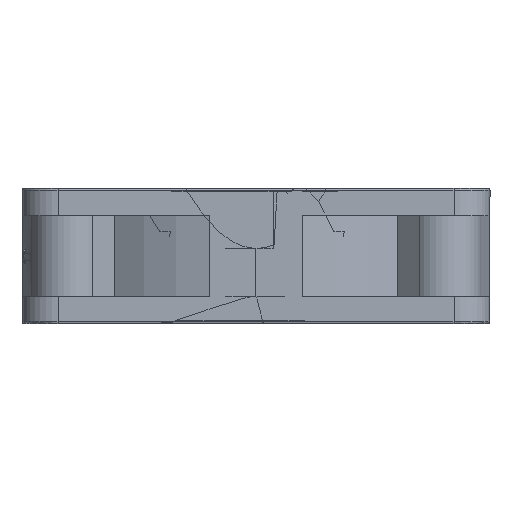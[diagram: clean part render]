
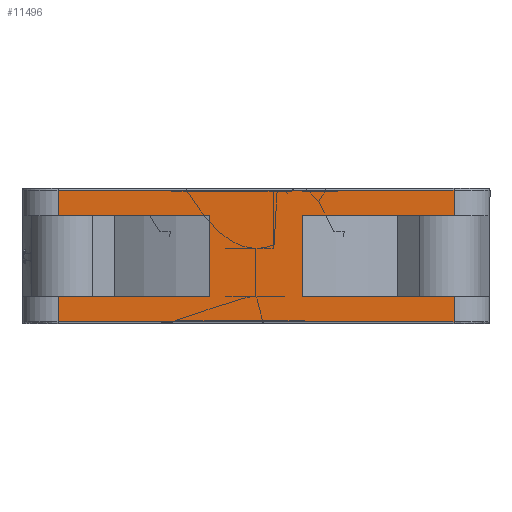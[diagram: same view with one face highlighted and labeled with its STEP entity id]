
A CAD part, left-side view. The second image highlights one B-rep face of the part: STEP entity #11496.
In plain terms, the highlighted planar face has unit normal (-1, 0, 0).
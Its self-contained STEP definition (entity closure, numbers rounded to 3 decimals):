
#150 = EDGE_CURVE ( 'NONE', #19099, #2733, #2553, .T. ) ;
#221 = CARTESIAN_POINT ( 'NONE',  ( -26., -22., -3. ) ) ;
#321 = VERTEX_POINT ( 'NONE', #12454 ) ;
#367 = CARTESIAN_POINT ( 'NONE',  ( -26., -22., -15. ) ) ;
#469 = DIRECTION ( 'NONE',  ( 0., 0., 1. ) ) ;
#716 = ORIENTED_EDGE ( 'NONE', *, *, #5051, .F. ) ;
#903 = EDGE_CURVE ( 'NONE', #10836, #8729, #11479, .T. ) ;
#1096 = CARTESIAN_POINT ( 'NONE',  ( -26., -22., -15. ) ) ;
#1154 = DIRECTION ( 'NONE',  ( 0., -1., 0. ) ) ;
#1441 = CARTESIAN_POINT ( 'NONE',  ( -26., -22., -12. ) ) ;
#2553 = LINE ( 'NONE', #18850, #18923 ) ;
#2670 = PLANE ( 'NONE',  #4665 ) ;
#2733 = VERTEX_POINT ( 'NONE', #18539 ) ;
#2758 = VERTEX_POINT ( 'NONE', #4371 ) ;
#2864 = LINE ( 'NONE', #1441, #19223 ) ;
#2898 = CARTESIAN_POINT ( 'NONE',  ( -26., 29.154, -0.2 ) ) ;
#3039 = FACE_OUTER_BOUND ( 'NONE', #6028, .T. ) ;
#3165 = EDGE_CURVE ( 'NONE', #18560, #10879, #3203, .T. ) ;
#3203 = LINE ( 'NONE', #8396, #19536 ) ;
#3259 = ORIENTED_EDGE ( 'NONE', *, *, #8419, .T. ) ;
#3336 = CARTESIAN_POINT ( 'NONE',  ( -26., 22., -0.2 ) ) ;
#3713 = VECTOR ( 'NONE', #16546, 1000. ) ;
#3929 = LINE ( 'NONE', #2898, #4433 ) ;
#4277 = CARTESIAN_POINT ( 'NONE',  ( -26., -22., -14.8 ) ) ;
#4283 = DIRECTION ( 'NONE',  ( 0., 0., 1. ) ) ;
#4371 = CARTESIAN_POINT ( 'NONE',  ( -26., -5.123, -3. ) ) ;
#4433 = VECTOR ( 'NONE', #13955, 1000. ) ;
#4665 = AXIS2_PLACEMENT_3D ( 'NONE', #1096, #9018, #4283 ) ;
#5051 = EDGE_CURVE ( 'NONE', #20192, #10836, #3929, .T. ) ;
#5484 = CARTESIAN_POINT ( 'NONE',  ( -26., 5.123, -15. ) ) ;
#5498 = CARTESIAN_POINT ( 'NONE',  ( -26., -22., -12. ) ) ;
#6005 = EDGE_CURVE ( 'NONE', #6738, #15734, #7994, .T. ) ;
#6028 = EDGE_LOOP ( 'NONE', ( #6223, #14011, #15824, #12181, #17469, #9678, #15733, #9192, #9603, #3259, #12969, #716 ) ) ;
#6223 = ORIENTED_EDGE ( 'NONE', *, *, #13352, .T. ) ;
#6415 = VECTOR ( 'NONE', #1154, 1000. ) ;
#6528 = DIRECTION ( 'NONE',  ( 0., -1., 0. ) ) ;
#6738 = VERTEX_POINT ( 'NONE', #10586 ) ;
#7594 = EDGE_CURVE ( 'NONE', #15128, #19099, #12111, .T. ) ;
#7894 = CARTESIAN_POINT ( 'NONE',  ( -26., -22., -14.8 ) ) ;
#7994 = LINE ( 'NONE', #9657, #8711 ) ;
#8253 = DIRECTION ( 'NONE',  ( 0., 0., -1. ) ) ;
#8369 = CARTESIAN_POINT ( 'NONE',  ( -26., -5.123, -15. ) ) ;
#8396 = CARTESIAN_POINT ( 'NONE',  ( -26., -22., -15. ) ) ;
#8419 = EDGE_CURVE ( 'NONE', #2758, #8729, #8900, .T. ) ;
#8711 = VECTOR ( 'NONE', #6528, 1000. ) ;
#8729 = VERTEX_POINT ( 'NONE', #221 ) ;
#8900 = LINE ( 'NONE', #20071, #16780 ) ;
#8921 = VECTOR ( 'NONE', #16533, 1000. ) ;
#9018 = DIRECTION ( 'NONE',  ( -1., 0., 0. ) ) ;
#9192 = ORIENTED_EDGE ( 'NONE', *, *, #18503, .T. ) ;
#9603 = ORIENTED_EDGE ( 'NONE', *, *, #13157, .T. ) ;
#9657 = CARTESIAN_POINT ( 'NONE',  ( -26., -22., -3. ) ) ;
#9678 = ORIENTED_EDGE ( 'NONE', *, *, #15000, .T. ) ;
#10016 = CARTESIAN_POINT ( 'NONE',  ( -26., -22., -0.2 ) ) ;
#10375 = VECTOR ( 'NONE', #13493, 1000. ) ;
#10585 = DIRECTION ( 'NONE',  ( 0., -1., 0. ) ) ;
#10586 = CARTESIAN_POINT ( 'NONE',  ( -26., 22., -3. ) ) ;
#10618 = LINE ( 'NONE', #4277, #6415 ) ;
#10836 = VERTEX_POINT ( 'NONE', #10016 ) ;
#10879 = VERTEX_POINT ( 'NONE', #13293 ) ;
#11376 = VECTOR ( 'NONE', #469, 1000. ) ;
#11479 = LINE ( 'NONE', #367, #15144 ) ;
#11496 = ADVANCED_FACE ( 'NONE', ( #3039 ), #2670, .T. ) ;
#11785 = CARTESIAN_POINT ( 'NONE',  ( -26., 22., -12. ) ) ;
#12111 = LINE ( 'NONE', #5498, #3713 ) ;
#12181 = ORIENTED_EDGE ( 'NONE', *, *, #7594, .T. ) ;
#12452 = CARTESIAN_POINT ( 'NONE',  ( -26., 5.123, -12. ) ) ;
#12454 = CARTESIAN_POINT ( 'NONE',  ( -26., -5.123, -12. ) ) ;
#12523 = DIRECTION ( 'NONE',  ( 0., 1., 0. ) ) ;
#12969 = ORIENTED_EDGE ( 'NONE', *, *, #903, .F. ) ;
#13157 = EDGE_CURVE ( 'NONE', #321, #2758, #15568, .T. ) ;
#13293 = CARTESIAN_POINT ( 'NONE',  ( -26., -22., -12. ) ) ;
#13352 = EDGE_CURVE ( 'NONE', #20192, #6738, #18269, .T. ) ;
#13493 = DIRECTION ( 'NONE',  ( 0., 0., -1. ) ) ;
#13566 = LINE ( 'NONE', #5484, #8921 ) ;
#13955 = DIRECTION ( 'NONE',  ( 0., -1., 0. ) ) ;
#14011 = ORIENTED_EDGE ( 'NONE', *, *, #6005, .T. ) ;
#15000 = EDGE_CURVE ( 'NONE', #2733, #18560, #10618, .T. ) ;
#15128 = VERTEX_POINT ( 'NONE', #12452 ) ;
#15144 = VECTOR ( 'NONE', #8253, 1000. ) ;
#15568 = LINE ( 'NONE', #8369, #11376 ) ;
#15733 = ORIENTED_EDGE ( 'NONE', *, *, #3165, .T. ) ;
#15734 = VERTEX_POINT ( 'NONE', #16282 ) ;
#15824 = ORIENTED_EDGE ( 'NONE', *, *, #19943, .T. ) ;
#15854 = DIRECTION ( 'NONE',  ( 0., 0., -1. ) ) ;
#16282 = CARTESIAN_POINT ( 'NONE',  ( -26., 5.123, -3. ) ) ;
#16533 = DIRECTION ( 'NONE',  ( 0., 0., -1. ) ) ;
#16546 = DIRECTION ( 'NONE',  ( 0., 1., 0. ) ) ;
#16780 = VECTOR ( 'NONE', #10585, 1000. ) ;
#17469 = ORIENTED_EDGE ( 'NONE', *, *, #150, .T. ) ;
#18269 = LINE ( 'NONE', #20030, #10375 ) ;
#18503 = EDGE_CURVE ( 'NONE', #10879, #321, #2864, .T. ) ;
#18539 = CARTESIAN_POINT ( 'NONE',  ( -26., 22., -14.8 ) ) ;
#18560 = VERTEX_POINT ( 'NONE', #7894 ) ;
#18850 = CARTESIAN_POINT ( 'NONE',  ( -26., 22., -15. ) ) ;
#18923 = VECTOR ( 'NONE', #15854, 1000. ) ;
#19099 = VERTEX_POINT ( 'NONE', #11785 ) ;
#19223 = VECTOR ( 'NONE', #12523, 1000. ) ;
#19452 = DIRECTION ( 'NONE',  ( 0., 0., 1. ) ) ;
#19536 = VECTOR ( 'NONE', #19452, 1000. ) ;
#19943 = EDGE_CURVE ( 'NONE', #15734, #15128, #13566, .T. ) ;
#20030 = CARTESIAN_POINT ( 'NONE',  ( -26., 22., -15. ) ) ;
#20071 = CARTESIAN_POINT ( 'NONE',  ( -26., -22., -3. ) ) ;
#20192 = VERTEX_POINT ( 'NONE', #3336 ) ;
